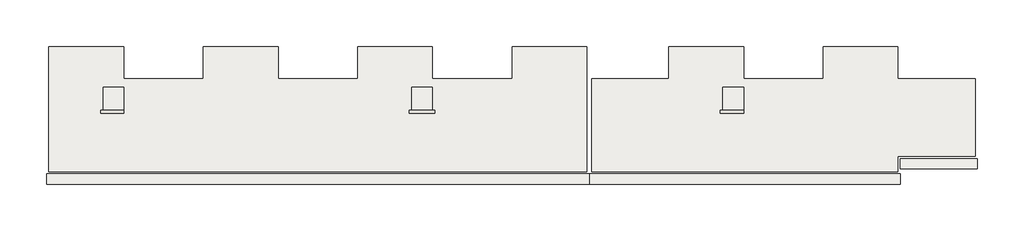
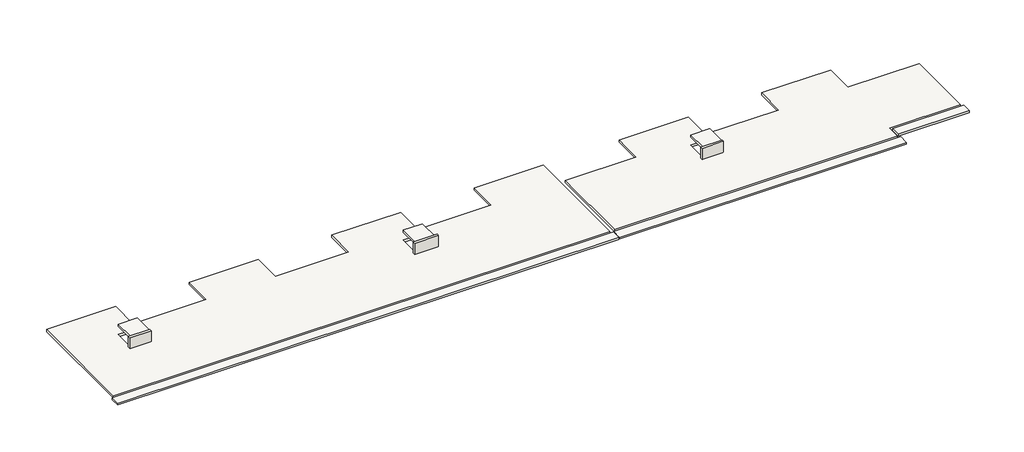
# One storey: 4 slabs, 3 walls.
"""IFC4 building model written with IfcOpenShell, lengths in millimetres."""

from ifc_helpers import new_model, si_unit, frame, origin, place, context, project, spatial, polyline, outline, extrude, faceted_brep, element, save

model = new_model("IFC4")

# Units and contexts
model_context = context("Model", 3, world=origin())
ifc_project = project(units=[si_unit("LENGTHUNIT", "METRE", prefix="MILLI")], contexts=[model_context])

# Site, building, storey
site = spatial("IfcSite", under=ifc_project)
building = spatial("IfcBuilding", under=site)
storey = spatial("IfcBuildingStorey", under=building, Name="Niv +4", Elevation=10800.0)

# Slabs
placement = place(None, origin())
element("IfcSlab", 1, ObjectType="FREYS BA20 C25/30", at=placement, inside=storey, context=model_context, shape_type="SweptSolid", body=[
    extrude(outline(polyline([(-18635.4433224, 6246.3428699), (-18635.4433224, 3746.3820367), (-12435.4433224, 3746.3820367), (-12435.4433224, 6246.3230623), (-6635.4433224, 6246.3230623), (-6635.4433224, 3746.3820367), (-435.4433224, 3746.3820367), (-435.4433224, 6256.3825539), (5364.5566776, 6256.3825539), (5364.5566776, 3756.3855373), (11564.5566776, 3756.3855373), (11564.5566776, 6246.3439203), (17354.5566776, 6246.3439203), (17354.5566776, -3473.6560797), (-24455.4431265, -3473.6560797), (-24455.4431265, 6246.3428699), (-18635.4433224, 6246.3428699)]), holes=[polyline([(-18635.4433224, 3086.3382733), (-20235.4602926, 3086.3382733), (-20235.4602926, 1286.3382733), (-18635.4433224, 1286.3382733), (-18635.4433224, 3086.3382733)]), polyline([(5364.5566776, 3086.3439054), (3764.5312758, 3086.3439054), (3764.5312758, 1286.3439054), (5364.5566776, 1286.3439054), (5364.5566776, 3086.3439054)])]), frame((0.0, 0.0, 10600.0), z_axis=(0.0, 0.0, 1.0), x_axis=(1.0, 0.0, 0.0)), (0.0, 0.0, 1.0), 200.0),
])
element("IfcSlab", 2, ObjectType="FREYS BA20 C25/30", at=placement, inside=storey, context=model_context, shape_type="SweptSolid", body=[
    extrude(outline(polyline([(23764.5566776, 3756.3825734), (23764.5566776, 6246.3439203), (29564.5566776, 6246.3439203), (29564.5566776, 3746.3439203), (35764.5566776, 3746.3439203), (35764.5566776, 6256.3228263), (41564.5566776, 6256.3228263), (41564.5566776, 3746.3802819), (47574.5566776, 3746.3802819), (47574.5566776, -2273.6560797), (41564.5566776, -2273.6560797), (41564.5566776, -3473.6560797), (17778.5913396, -3473.6560797), (17778.5913396, 3756.3825734), (23764.5566776, 3756.3825734)]), holes=[polyline([(29564.5566776, 3086.3442869), (27964.5566776, 3086.3442869), (27964.5566776, 1286.3442869), (29564.5566776, 1286.3442869), (29564.5566776, 3086.3442869)])]), frame((0.0, 0.0, 10600.0), z_axis=(0.0, 0.0, 1.0), x_axis=(1.0, 0.0, 0.0)), (0.0, 0.0, 1.0), 200.0),
])
element("IfcSlab", 3, ObjectType="FREYS BA18-Var C25/30", at=placement, inside=storey, context=model_context, shape_type="SweptSolid", body=[
    extrude(outline(polyline([(-3653.6560797, 10620.0), (-4453.6560797, 10620.0), (-4453.6560797, 10780.0), (-3653.6560797, 10800.0), (-3653.6560797, 10620.0)])), frame((-24635.4431265, 0.0, 0.0), z_axis=(1.0, 0.0, 0.0), x_axis=(0.0, 1.0, 0.0)), (0.0, 0.0, 1.0), 42189.9998041),
    extrude(outline(polyline([(-3653.6560797, 10620.0), (-4453.6560797, 10620.0), (-4453.6560797, 10780.0), (-3653.6560797, 10800.0), (-3653.6560797, 10620.0)])), frame((17578.5913396, 0.0, 0.0), z_axis=(1.0, 0.0, 0.0), x_axis=(0.0, 1.0, 0.0)), (0.0, 0.0, 1.0), 24185.965338),
    extrude(outline(polyline([(-2453.6560797, 10620.0), (-3253.6560797, 10620.0), (-3253.6560797, 10780.0), (-2453.6560797, 10800.0), (-2453.6560797, 10620.0)])), frame((41764.5566776, 0.0, 0.0), z_axis=(1.0, 0.0, 0.0), x_axis=(0.0, 1.0, 0.0)), (0.0, 0.0, 1.0), 5990.0),
])
element("IfcSlab", 4, ObjectType="FREYS BA20 C25/30", at=placement, inside=storey, context=model_context, shape_type="SweptSolid", body=[
    extrude(outline(polyline([(-18635.4433224, 3086.3382733), (-18635.4433224, 1286.3382733), (-20235.4602926, 1286.3382733), (-20235.4602926, 3086.3382733), (-18635.4433224, 3086.3382733)])), frame((0.0, 0.0, 11500.0), z_axis=(0.0, 0.0, 1.0), x_axis=(1.0, 0.0, 0.0)), (0.0, 0.0, 1.0), 200.0),
    extrude(outline(polyline([(5364.5566776, 3086.3439054), (5364.5566776, 1286.3439054), (3764.5312758, 1286.3439054), (3764.5312758, 3086.3439054), (5364.5566776, 3086.3439054)])), frame((0.0, 0.0, 11500.0), z_axis=(0.0, 0.0, 1.0), x_axis=(1.0, 0.0, 0.0)), (0.0, 0.0, 1.0), 200.0),
    extrude(outline(polyline([(29564.5566776, 3086.3442869), (29564.5566776, 1286.3442869), (27964.5566776, 1286.3442869), (27964.5566776, 3086.3442869), (29564.5566776, 3086.3442869)])), frame((0.0, 0.0, 11500.0), z_axis=(0.0, 0.0, 1.0), x_axis=(1.0, 0.0, 0.0)), (0.0, 0.0, 1.0), 200.0),
])

# Walls
element("IfcWall", 5, ObjectType="FREYS voile BA C25/30 ep=20 EXT", at=placement, inside=storey, context=model_context, shape_type="Brep", body=[
    faceted_brep([(3564.5312758, 1086.3439054, 10350.0), (5364.5566776, 1086.3439054, 10350.0), (5564.5566776, 1086.3439054, 10350.0), (5564.5566776, 1086.3439054, 10600.0), (5564.5566776, 1086.3439054, 11790.0), (3564.5312758, 1086.3439054, 11790.0), (3564.5312758, 1286.3439054, 10350.0), (3564.5312758, 1286.3439054, 10600.0), (3564.5312758, 1286.3439054, 11790.0), (5564.5566776, 1286.3439054, 11790.0), (5564.5566776, 1286.3439054, 10600.0), (5564.5566776, 1286.3439054, 10350.0), (5364.5566776, 1286.3439054, 10350.0), (5564.5566776, 1186.3439054, 10350.0)], [[[0, 1, 2, 3, 4, 5]], [[6, 7, 8, 9, 10, 11, 12]], [[2, 1, 0, 6, 12, 11, 13]], [[5, 4, 9, 8]], [[0, 5, 8, 7, 6]], [[4, 3, 2, 13, 11, 10, 9]]]),
])
element("IfcWall", 6, ObjectType="FREYS voile BA C25/30 ep=20 EXT", at=placement, inside=storey, context=model_context, shape_type="Brep", body=[
    faceted_brep([(-20435.4602926, 1086.3382733, 10350.0), (-18635.4433224, 1086.3382733, 10350.0), (-18635.4433224, 1086.3382733, 11790.0), (-20435.4602926, 1086.3382733, 11790.0), (-20435.4602926, 1286.3382733, 10350.0), (-20435.4602926, 1286.3382733, 10600.0), (-20435.4602926, 1286.3382733, 11790.0), (-18635.4433224, 1286.3382733, 11790.0), (-18635.4433224, 1286.3382733, 10350.0)], [[[0, 1, 2, 3]], [[4, 5, 6, 7, 8]], [[1, 0, 4, 8]], [[3, 2, 7, 6]], [[0, 3, 6, 5, 4]], [[2, 1, 8, 7]]]),
])
element("IfcWall", 7, ObjectType="FREYS voile BA C25/30 ep=20 EXT", at=placement, inside=storey, context=model_context, shape_type="Brep", body=[
    faceted_brep([(27764.5566776, 1086.3442869, 10350.0), (29564.5566776, 1086.3442869, 10350.0), (29564.5566776, 1086.3442869, 11790.0), (27764.5566776, 1086.3442869, 11790.0), (27764.5566776, 1286.3442869, 10350.0), (27764.5566776, 1286.3442869, 10600.0), (27764.5566776, 1286.3442869, 11790.0), (29564.5566776, 1286.3442869, 11790.0), (29564.5566776, 1286.3442869, 10350.0)], [[[0, 1, 2, 3]], [[4, 5, 6, 7, 8]], [[1, 0, 4, 8]], [[3, 2, 7, 6]], [[0, 3, 6, 5, 4]], [[2, 1, 8, 7]]]),
])

save(model, "model.ifc")
